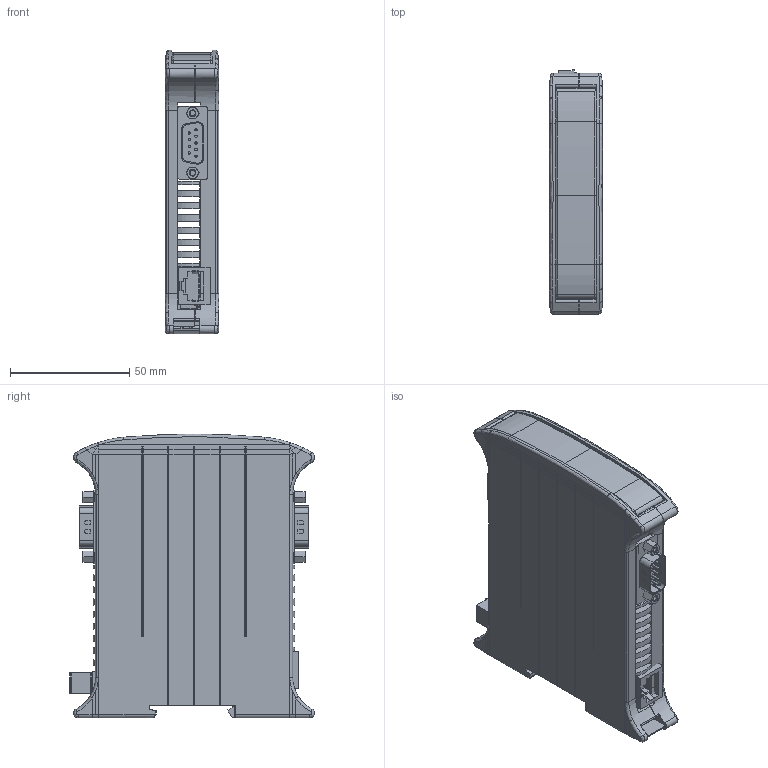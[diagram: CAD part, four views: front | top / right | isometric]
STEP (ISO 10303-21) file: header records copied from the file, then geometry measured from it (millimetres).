
FILE_DESCRIPTION(('FreeCAD Model'),'2;1');
FILE_NAME('C:/Users/henrik/Desktop/proconx_x100-can.step', '2018-10-17T09:55:03',('Author'),(''), 'Open CASCADE STEP processor 6.8','FreeCAD','Unknown');
FILE_SCHEMA(('AUTOMOTIVE_DESIGN_CC2 { 1 2 10303 214 -1 1 5 4 }'));
Length unit declared in the file: millimetre
Products named in the file (14): ASSEMBLY; 65612_1; 65612_5; 65612_4; 65612_2; 65612_3; RJ45; DSUB9-RS232-1; DSUB9-CAN; 65612_009; mc_1.5-2-g-3.81; MC_1.5-2-ST-3.81; Pocket; Pocket001
Assembly tree (13 placements, depth 2):
  ASSEMBLY
    65612_1
    65612_5
    65612_4
    65612_2
    65612_3
    RJ45
    DSUB9-RS232-1
    DSUB9-CAN
    65612_009
    mc_1.5-2-g-3.81
    MC_1.5-2-ST-3.81
    Pocket
    Pocket001
Bounding box: 22.5 x 102.71 x 119.08 mm (x, y, z)
Volume: 66570 mm3; surface area: 72919.3 mm2
Topology: 13 solids, 13 shells, 1983 faces, 5225 edges, 3325 vertices
Faces by surface type: plane 1134, cylinder 587, torus 85, bspline 79, cone 60, sphere 38
Entity records: 234709 total; most frequent: CARTESIAN_POINT 129761, DIRECTION 15741, ORIENTED_EDGE 10386, PCURVE 10386, DEFINITIONAL_REPRESENTATION 10386, LINE 9090, VECTOR 9090, EDGE_CURVE 5193
